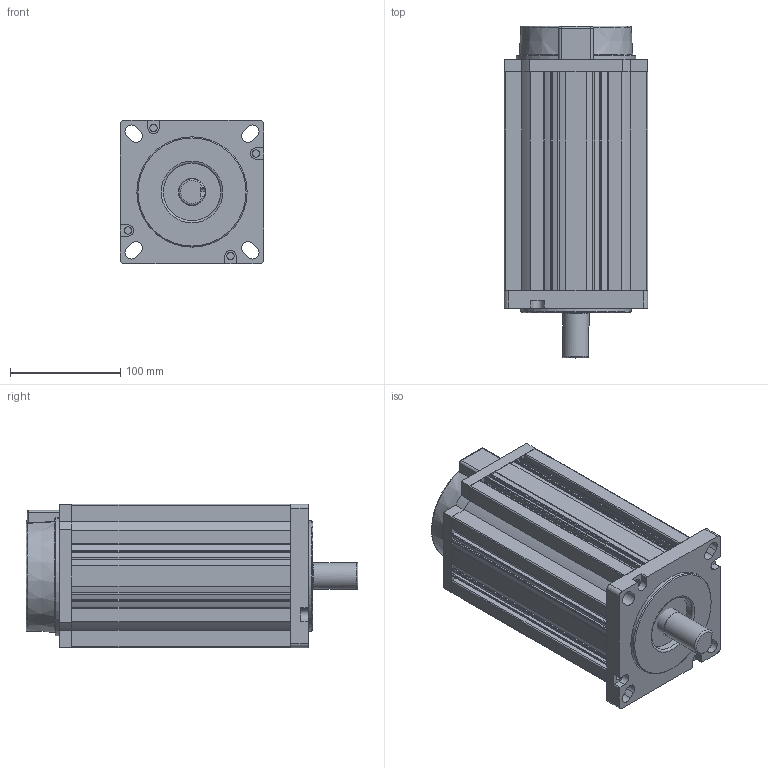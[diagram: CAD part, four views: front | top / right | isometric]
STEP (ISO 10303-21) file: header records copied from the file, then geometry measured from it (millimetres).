
FILE_DESCRIPTION(/* description */ (''),/* implementation_level */ '2;1');
FILE_NAME(/* name */ '130BYG350C-X.stp',/* time_stamp */ '2024-08-16T14:43:59+08:00',/* author */ (''),/* organization */ (''),/* preprocessor_version */ 'ST-DEVELOPER v18.1',/* originating_system */ 'SIEMENS PLM Software NX 2000',/* authorisation */ '');
FILE_SCHEMA (('AUTOMOTIVE_DESIGN { 1 0 10303 214 3 1 1 1 }'));
Length unit declared in the file: millimetre
Products named in the file (1): 925032A4A3696twc
Bounding box: 130 x 301 x 130 mm (x, y, z)
Volume: 3591993.5 mm3; surface area: 287997.8 mm2
Topology: 5 solids, 5 shells, 279 faces, 778 edges, 514 vertices
Faces by surface type: plane 133, cylinder 126, bspline 10, torus 6, cone 2, sphere 2
Full cylindrical faces by diameter (mm): 6.5 x12, 10.5 x4, 24 x1, 24.7 x1, 52 x1, 100 x1
Entity records: 9170 total; most frequent: CARTESIAN_POINT 1892, DIRECTION 1529, ORIENTED_EDGE 1478, EDGE_CURVE 739, AXIS2_PLACEMENT_3D 540, VERTEX_POINT 500, LINE 449, VECTOR 449
